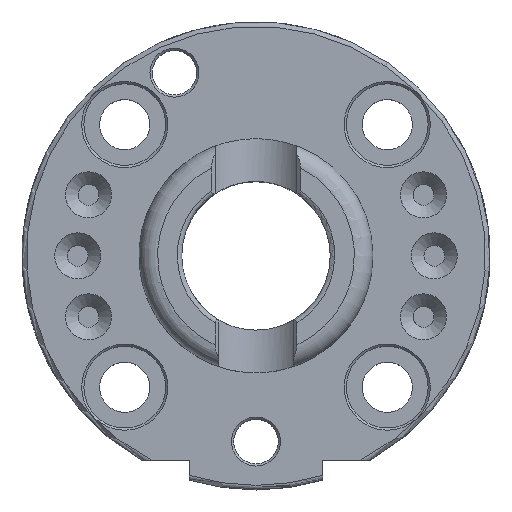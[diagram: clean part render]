
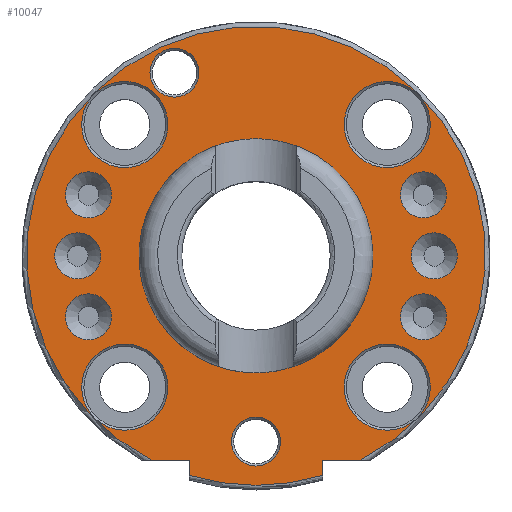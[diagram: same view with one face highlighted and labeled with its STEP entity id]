
A CAD part, top view. The second image highlights one B-rep face of the part: STEP entity #10047.
In plain terms, the highlighted planar face has unit normal (0, 0, 1).
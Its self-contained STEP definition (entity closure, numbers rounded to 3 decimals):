
#859=FACE_BOUND('',#2202,.T.);
#860=FACE_BOUND('',#2203,.T.);
#861=FACE_BOUND('',#2204,.T.);
#862=FACE_BOUND('',#2205,.T.);
#863=FACE_BOUND('',#2206,.T.);
#864=FACE_BOUND('',#2207,.T.);
#865=FACE_BOUND('',#2208,.T.);
#866=FACE_BOUND('',#2209,.T.);
#867=FACE_BOUND('',#2210,.T.);
#868=FACE_BOUND('',#2211,.T.);
#869=FACE_BOUND('',#2212,.T.);
#870=FACE_BOUND('',#2213,.T.);
#871=FACE_BOUND('',#2214,.T.);
#1082=PLANE('',#10617);
#1587=FACE_OUTER_BOUND('',#2201,.T.);
#2201=EDGE_LOOP('',(#8876,#8877,#8878,#8879,#8880,#8881));
#2202=EDGE_LOOP('',(#8882));
#2203=EDGE_LOOP('',(#8883));
#2204=EDGE_LOOP('',(#8884));
#2205=EDGE_LOOP('',(#8885));
#2206=EDGE_LOOP('',(#8886));
#2207=EDGE_LOOP('',(#8887));
#2208=EDGE_LOOP('',(#8888));
#2209=EDGE_LOOP('',(#8889));
#2210=EDGE_LOOP('',(#8890));
#2211=EDGE_LOOP('',(#8891));
#2212=EDGE_LOOP('',(#8892));
#2213=EDGE_LOOP('',(#8893));
#2214=EDGE_LOOP('',(#8894));
#2935=LINE('',#20435,#3637);
#2936=LINE('',#20437,#3638);
#2937=LINE('',#20441,#3639);
#2938=LINE('',#20442,#3640);
#3637=VECTOR('',#12374,10.);
#3638=VECTOR('',#12375,10.);
#3639=VECTOR('',#12378,10.);
#3640=VECTOR('',#12379,10.);
#3728=CIRCLE('',#10248,15.75);
#3846=CIRCLE('',#10616,3.1);
#3847=CIRCLE('',#10618,30.9);
#3848=CIRCLE('',#10619,30.9);
#3849=CIRCLE('',#10620,3.1);
#3850=CIRCLE('',#10621,3.1);
#3851=CIRCLE('',#10622,3.1);
#3852=CIRCLE('',#10623,3.3);
#3853=CIRCLE('',#10624,5.8);
#3854=CIRCLE('',#10625,5.8);
#3855=CIRCLE('',#10626,5.8);
#3856=CIRCLE('',#10627,5.8);
#3857=CIRCLE('',#10628,3.3);
#3858=CIRCLE('',#10629,3.1);
#3859=CIRCLE('',#10630,3.1);
#4024=VERTEX_POINT('',#13079);
#4795=VERTEX_POINT('',#20427);
#4796=VERTEX_POINT('',#20431);
#4797=VERTEX_POINT('',#20432);
#4798=VERTEX_POINT('',#20434);
#4799=VERTEX_POINT('',#20436);
#4800=VERTEX_POINT('',#20438);
#4801=VERTEX_POINT('',#20440);
#4802=VERTEX_POINT('',#20443);
#4803=VERTEX_POINT('',#20445);
#4804=VERTEX_POINT('',#20447);
#4805=VERTEX_POINT('',#20449);
#4806=VERTEX_POINT('',#20451);
#4807=VERTEX_POINT('',#20453);
#4808=VERTEX_POINT('',#20455);
#4809=VERTEX_POINT('',#20457);
#4810=VERTEX_POINT('',#20459);
#4811=VERTEX_POINT('',#20461);
#4812=VERTEX_POINT('',#20463);
#5038=EDGE_CURVE('',#4024,#4024,#3728,.T.);
#6179=EDGE_CURVE('',#4795,#4795,#3846,.T.);
#6181=EDGE_CURVE('',#4796,#4797,#3847,.T.);
#6182=EDGE_CURVE('',#4796,#4798,#2935,.T.);
#6183=EDGE_CURVE('',#4798,#4799,#2936,.T.);
#6184=EDGE_CURVE('',#4800,#4799,#3848,.T.);
#6185=EDGE_CURVE('',#4800,#4801,#2937,.T.);
#6186=EDGE_CURVE('',#4801,#4797,#2938,.T.);
#6187=EDGE_CURVE('',#4802,#4802,#3849,.T.);
#6188=EDGE_CURVE('',#4803,#4803,#3850,.T.);
#6189=EDGE_CURVE('',#4804,#4804,#3851,.T.);
#6190=EDGE_CURVE('',#4805,#4805,#3852,.T.);
#6191=EDGE_CURVE('',#4806,#4806,#3853,.T.);
#6192=EDGE_CURVE('',#4807,#4807,#3854,.T.);
#6193=EDGE_CURVE('',#4808,#4808,#3855,.T.);
#6194=EDGE_CURVE('',#4809,#4809,#3856,.T.);
#6195=EDGE_CURVE('',#4810,#4810,#3857,.T.);
#6196=EDGE_CURVE('',#4811,#4811,#3858,.T.);
#6197=EDGE_CURVE('',#4812,#4812,#3859,.T.);
#8876=ORIENTED_EDGE('',*,*,#6181,.F.);
#8877=ORIENTED_EDGE('',*,*,#6182,.T.);
#8878=ORIENTED_EDGE('',*,*,#6183,.T.);
#8879=ORIENTED_EDGE('',*,*,#6184,.F.);
#8880=ORIENTED_EDGE('',*,*,#6185,.T.);
#8881=ORIENTED_EDGE('',*,*,#6186,.T.);
#8882=ORIENTED_EDGE('',*,*,#6187,.F.);
#8883=ORIENTED_EDGE('',*,*,#6188,.F.);
#8884=ORIENTED_EDGE('',*,*,#6189,.F.);
#8885=ORIENTED_EDGE('',*,*,#6190,.F.);
#8886=ORIENTED_EDGE('',*,*,#6191,.F.);
#8887=ORIENTED_EDGE('',*,*,#6192,.F.);
#8888=ORIENTED_EDGE('',*,*,#5038,.F.);
#8889=ORIENTED_EDGE('',*,*,#6193,.F.);
#8890=ORIENTED_EDGE('',*,*,#6194,.F.);
#8891=ORIENTED_EDGE('',*,*,#6195,.F.);
#8892=ORIENTED_EDGE('',*,*,#6196,.F.);
#8893=ORIENTED_EDGE('',*,*,#6197,.F.);
#8894=ORIENTED_EDGE('',*,*,#6179,.F.);
#10047=ADVANCED_FACE('',(#1587,#859,#860,#861,#862,#863,#864,#865,#866,
#867,#868,#869,#870,#871),#1082,.T.);
#10248=AXIS2_PLACEMENT_3D('',#13080,#11071,#11072);
#10616=AXIS2_PLACEMENT_3D('',#20428,#12367,#12368);
#10617=AXIS2_PLACEMENT_3D('',#20430,#12370,#12371);
#10618=AXIS2_PLACEMENT_3D('',#20433,#12372,#12373);
#10619=AXIS2_PLACEMENT_3D('',#20439,#12376,#12377);
#10620=AXIS2_PLACEMENT_3D('',#20444,#12380,#12381);
#10621=AXIS2_PLACEMENT_3D('',#20446,#12382,#12383);
#10622=AXIS2_PLACEMENT_3D('',#20448,#12384,#12385);
#10623=AXIS2_PLACEMENT_3D('',#20450,#12386,#12387);
#10624=AXIS2_PLACEMENT_3D('',#20452,#12388,#12389);
#10625=AXIS2_PLACEMENT_3D('',#20454,#12390,#12391);
#10626=AXIS2_PLACEMENT_3D('',#20456,#12392,#12393);
#10627=AXIS2_PLACEMENT_3D('',#20458,#12394,#12395);
#10628=AXIS2_PLACEMENT_3D('',#20460,#12396,#12397);
#10629=AXIS2_PLACEMENT_3D('',#20462,#12398,#12399);
#10630=AXIS2_PLACEMENT_3D('',#20464,#12400,#12401);
#11071=DIRECTION('center_axis',(0.,0.,1.));
#11072=DIRECTION('ref_axis',(-1.,0.,0.));
#12367=DIRECTION('center_axis',(0.,0.,1.));
#12368=DIRECTION('ref_axis',(-1.,0.,0.));
#12370=DIRECTION('center_axis',(0.,0.,1.));
#12371=DIRECTION('ref_axis',(1.,0.,0.));
#12372=DIRECTION('center_axis',(0.,0.,-1.));
#12373=DIRECTION('ref_axis',(0.,-1.,0.));
#12374=DIRECTION('',(0.,1.,0.));
#12375=DIRECTION('',(1.,0.,0.));
#12376=DIRECTION('center_axis',(0.,0.,-1.));
#12377=DIRECTION('ref_axis',(0.,1.,0.));
#12378=DIRECTION('',(1.,0.,0.));
#12379=DIRECTION('',(0.,-1.,0.));
#12380=DIRECTION('center_axis',(0.,0.,1.));
#12381=DIRECTION('ref_axis',(-1.,0.,0.));
#12382=DIRECTION('center_axis',(0.,0.,1.));
#12383=DIRECTION('ref_axis',(-1.,0.,0.));
#12384=DIRECTION('center_axis',(0.,0.,1.));
#12385=DIRECTION('ref_axis',(-1.,0.,0.));
#12386=DIRECTION('center_axis',(0.,0.,1.));
#12387=DIRECTION('ref_axis',(-1.,0.,0.));
#12388=DIRECTION('center_axis',(0.,0.,1.));
#12389=DIRECTION('ref_axis',(-1.,0.,0.));
#12390=DIRECTION('center_axis',(0.,0.,1.));
#12391=DIRECTION('ref_axis',(-1.,0.,0.));
#12392=DIRECTION('center_axis',(0.,0.,1.));
#12393=DIRECTION('ref_axis',(-1.,0.,0.));
#12394=DIRECTION('center_axis',(0.,0.,1.));
#12395=DIRECTION('ref_axis',(-1.,0.,0.));
#12396=DIRECTION('center_axis',(0.,0.,1.));
#12397=DIRECTION('ref_axis',(-1.,0.,0.));
#12398=DIRECTION('center_axis',(0.,0.,1.));
#12399=DIRECTION('ref_axis',(-1.,0.,0.));
#12400=DIRECTION('center_axis',(0.,0.,1.));
#12401=DIRECTION('ref_axis',(-1.,0.,0.));
#13079=CARTESIAN_POINT('',(15.75,0.,16.));
#13080=CARTESIAN_POINT('Origin',(0.,0.,16.));
#20427=CARTESIAN_POINT('',(-19.453,8.208,16.));
#20428=CARTESIAN_POINT('Origin',(-22.553,8.208,16.));
#20430=CARTESIAN_POINT('Origin',(0.,0.,
16.));
#20431=CARTESIAN_POINT('',(9.,-29.56,16.));
#20432=CARTESIAN_POINT('',(-9.,-29.56,16.));
#20433=CARTESIAN_POINT('Origin',(0.,0.,16.));
#20434=CARTESIAN_POINT('',(9.,-27.5,16.));
#20435=CARTESIAN_POINT('',(9.,-15.75,16.));
#20436=CARTESIAN_POINT('',(14.091,-27.5,16.));
#20437=CARTESIAN_POINT('',(4.5,-27.5,16.));
#20438=CARTESIAN_POINT('',(-14.091,-27.5,16.));
#20439=CARTESIAN_POINT('Origin',(0.,0.,16.));
#20440=CARTESIAN_POINT('',(-9.,-27.5,16.));
#20441=CARTESIAN_POINT('',(-7.681,-27.5,16.));
#20442=CARTESIAN_POINT('',(-9.,-13.75,16.));
#20443=CARTESIAN_POINT('',(-20.9,0.,16.));
#20444=CARTESIAN_POINT('Origin',(-24.,0.,16.));
#20445=CARTESIAN_POINT('',(25.653,8.208,16.));
#20446=CARTESIAN_POINT('Origin',(22.553,8.208,16.));
#20447=CARTESIAN_POINT('',(25.653,-8.208,16.));
#20448=CARTESIAN_POINT('Origin',(22.553,-8.208,16.));
#20449=CARTESIAN_POINT('',(-7.682,24.666,16.));
#20450=CARTESIAN_POINT('Origin',(-10.982,24.666,16.));
#20451=CARTESIAN_POINT('',(-11.878,17.678,16.));
#20452=CARTESIAN_POINT('Origin',(-17.678,17.678,16.));
#20453=CARTESIAN_POINT('',(23.478,-17.678,16.));
#20454=CARTESIAN_POINT('Origin',(17.678,-17.678,16.));
#20455=CARTESIAN_POINT('',(23.478,17.678,16.));
#20456=CARTESIAN_POINT('Origin',(17.678,17.678,16.));
#20457=CARTESIAN_POINT('',(-11.878,-17.678,16.));
#20458=CARTESIAN_POINT('Origin',(-17.678,-17.678,16.));
#20459=CARTESIAN_POINT('',(3.3,-25.,16.));
#20460=CARTESIAN_POINT('Origin',(0.,-25.,16.));
#20461=CARTESIAN_POINT('',(27.1,0.,16.));
#20462=CARTESIAN_POINT('Origin',(24.,0.,16.));
#20463=CARTESIAN_POINT('',(-19.453,-8.208,16.));
#20464=CARTESIAN_POINT('Origin',(-22.553,-8.208,16.));
